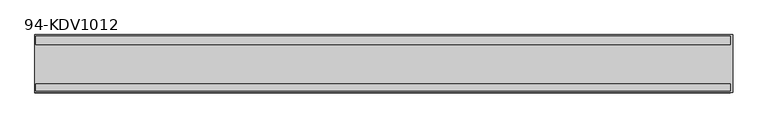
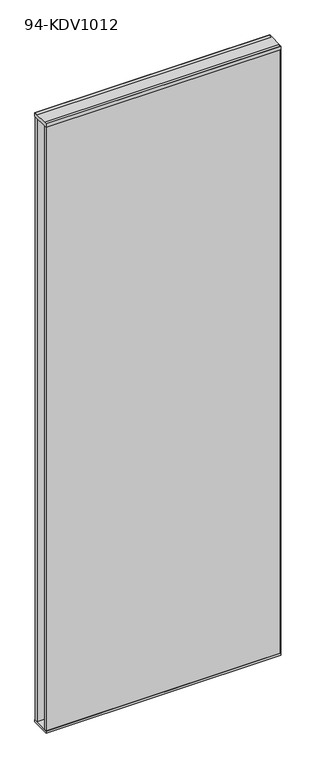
"""IFC4 building model written with IfcOpenShell, lengths in millimetres: plate geometry, PNX_VITRE_DV : 94-KDV1012."""

from ifc_helpers import new_model, si_unit, frame, origin, origin_with_axes, place, context, project, spatial, polyline, outline, extrude, source, transform, mapped, element, save


def plate_94_kdv1012_924cdc59(model_context):
    return source(origin(), model_context, "Body", "SweptSolid", [
        extrude(outline(polyline([(497.0, 39.5), (497.0, 27.5), (-499.0, 27.5), (-499.0, 39.5), (497.0, 39.5)])), origin_with_axes(), (0.0, 0.0, 1.0), 2739.0),
        extrude(outline(polyline([(497.0, -29.5), (497.0, -39.5), (-499.0, -39.5), (-499.0, -29.5), (497.0, -29.5)])), origin_with_axes(), (0.0, 0.0, 1.0), 2739.0),
        extrude(outline(polyline([(2739.0, -500.0), (2724.0, -500.0), (2724.0, 497.0), (9.0, 497.0), (9.0, -500.0), (0.0, -500.0), (0.0, 500.0), (2739.0, 500.0), (2739.0, -500.0)])), frame((0.0, -41.5, 0.0), z_axis=(0.0, 1.0, 0.0), x_axis=(0.0, 0.0, 1.0)), (0.0, 0.0, 1.0), 83.0),
    ])


if __name__ == "__main__":
    model = new_model("IFC4")
    model_context = context("Model", 3, world=origin())
    ifc_project = project(units=[si_unit("LENGTHUNIT", "METRE", prefix="MILLI")], contexts=[model_context])
    site = spatial("IfcSite", under=ifc_project)
    building = spatial("IfcBuilding", under=site)
    placement = place(None, origin())
    plate_94_kdv1012_shape = plate_94_kdv1012_924cdc59(model_context)
    element("IfcPlate", 1, ObjectType="PNX_VITRE_DV : 94-KDV1012", at=placement, inside=building, context=model_context, shape_type="MappedRepresentation", body=[
        mapped(plate_94_kdv1012_shape, transform((0.0, 0.0, 0.0), x_axis=(1.0, 0.0, 0.0), y_axis=(0.0, 1.0, 0.0), z_axis=(0.0, 0.0, 1.0))),
    ])
    save(model, "model.ifc")
